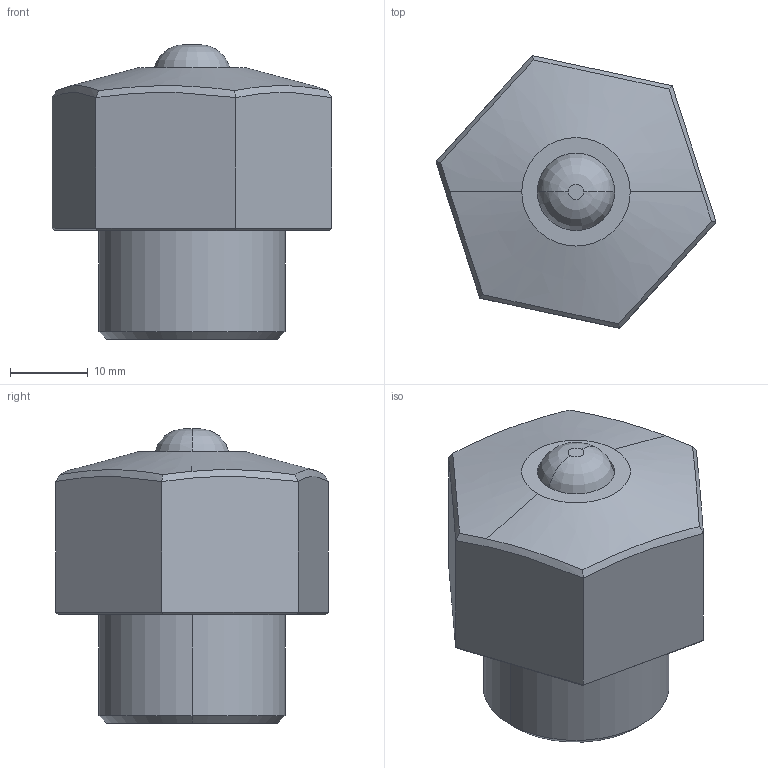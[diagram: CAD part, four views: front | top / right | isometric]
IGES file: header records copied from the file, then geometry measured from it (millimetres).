
Start section: SolidWorks IGES file using analytic representation for surfaces
Global section: file name: F:\TO4C-THREADED BODY-PUSHER\TO4C-M241.IGS; native system: SolidWorks 2019; preprocessor: SolidWorks 2019; author: ADMIN; date: 200802.104106; units: millimetre
Bounding box: 36.12 x 35.17 x 38 mm (x, y, z)
Volume: 23765 mm3; surface area: 6551.9 mm2
Topology: 2 solids, 2 shells, 44 faces, 90 edges, 54 vertices
Faces by surface type: plane 20, revolution 18, bspline 6
